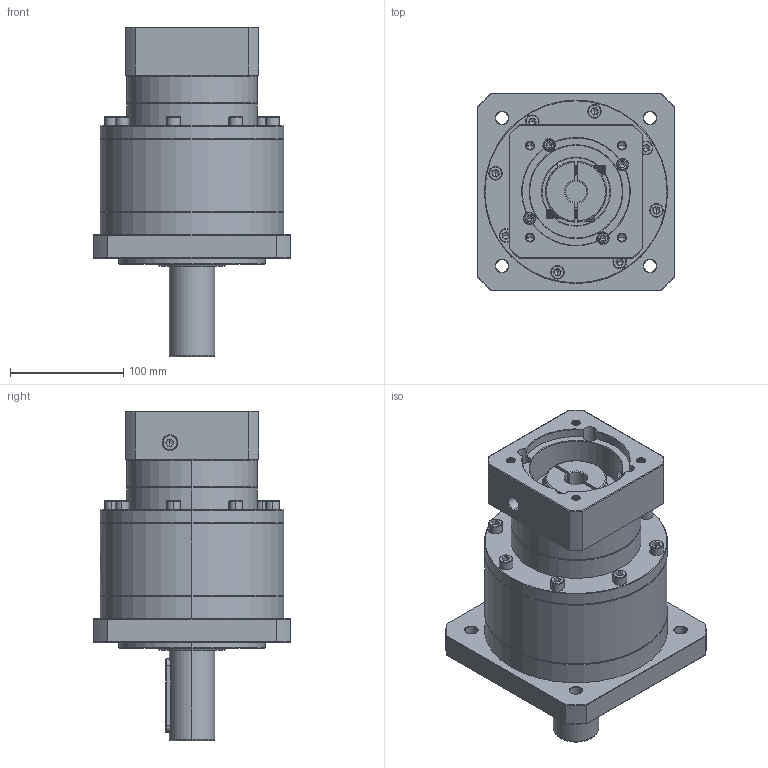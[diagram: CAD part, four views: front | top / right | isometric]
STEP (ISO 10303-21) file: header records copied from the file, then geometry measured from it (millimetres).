
FILE_DESCRIPTION (( 'STEP AP214' ), '1' );
FILE_NAME ('ZF160A-D40-L2-P2-19-95-115-M8.step', '2023-09-03T07:53:45', ( '' ), ( '' ), 'SwSTEP 2.0', 'SolidWorks 2016', '' );
FILE_SCHEMA (( 'AUTOMOTIVE_DESIGN' ));
Length unit declared in the file: millimetre
Products named in the file (1): ZF160A-D40-L2-P2-19-95-115-M8
Bounding box: 175 x 175 x 291.7 mm (x, y, z)
Volume: 3593460.1 mm3; surface area: 265853.6 mm2
Topology: 6 solids, 6 shells, 2449 faces, 6492 edges, 4166 vertices
Faces by surface type: plane 1119, cylinder 494, bspline 425, cone 373, torus 38
Entity records: 132823 total; most frequent: CARTESIAN_POINT 50389, ORIENTED_EDGE 12876, DIRECTION 9798, EDGE_CURVE 6438, VERTEX_POINT 4166, VECTOR 3390, LINE 3390, AXIS2_PLACEMENT_3D 3204
